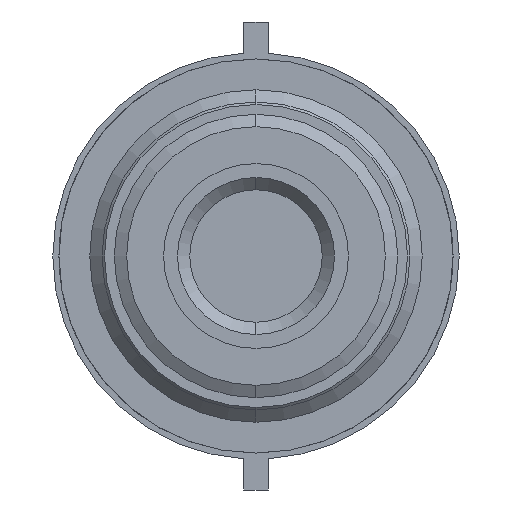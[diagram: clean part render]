
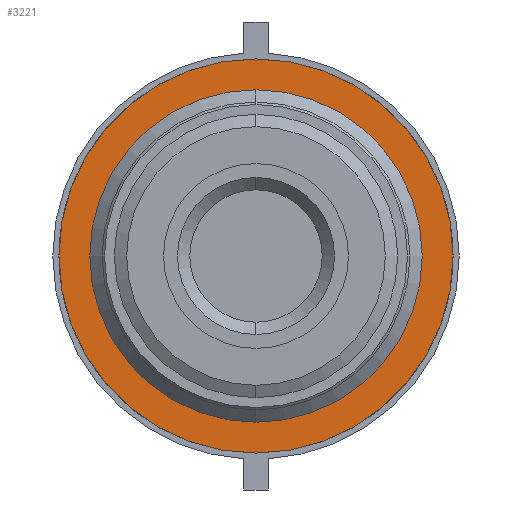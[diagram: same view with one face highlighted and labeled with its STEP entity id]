
A CAD part, left-side view. The second image highlights one B-rep face of the part: STEP entity #3221.
In plain terms, the highlighted planar face has unit normal (-1, 0, 0).
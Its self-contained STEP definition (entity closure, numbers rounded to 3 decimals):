
#1466=CARTESIAN_POINT('',(70.,0.,0.));
#1467=DIRECTION('',(-1.,0.,0.));
#1468=DIRECTION('',(0.,0.,-1.));
#1469=AXIS2_PLACEMENT_3D('',#1466,#1467,#1468);
#1471=CARTESIAN_POINT('',(70.,0.,0.));
#1472=DIRECTION('',(1.,0.,0.));
#1473=DIRECTION('',(0.,0.,-1.));
#1474=AXIS2_PLACEMENT_3D('',#1471,#1472,#1473);
#1476=CARTESIAN_POINT('',(70.,0.,0.));
#1477=DIRECTION('',(1.,0.,0.));
#1478=DIRECTION('',(0.,0.,-1.));
#1479=AXIS2_PLACEMENT_3D('',#1476,#1477,#1478);
#1481=CARTESIAN_POINT('',(70.,0.,0.));
#1482=DIRECTION('',(-1.,0.,0.));
#1483=DIRECTION('',(0.,0.,-1.));
#1484=AXIS2_PLACEMENT_3D('',#1481,#1482,#1483);
#2461=CARTESIAN_POINT('',(70.,0.,-16.));
#2463=VERTEX_POINT('',#2461);
#2464=CARTESIAN_POINT('',(70.,0.,-12.1));
#2466=VERTEX_POINT('',#2464);
#2479=CARTESIAN_POINT('',(70.,0.,16.));
#2481=VERTEX_POINT('',#2479);
#2482=CARTESIAN_POINT('',(70.,0.,12.1));
#2484=VERTEX_POINT('',#2482);
#3206=CARTESIAN_POINT('',(70.,0.,0.));
#3207=DIRECTION('',(1.,0.,0.));
#3208=DIRECTION('',(0.,0.,1.));
#3209=AXIS2_PLACEMENT_3D('',#3206,#3207,#3208);
#3210=PLANE('',#3209);
#3212=ORIENTED_EDGE('',*,*,#3211,.T.);
#3214=ORIENTED_EDGE('',*,*,#3213,.F.);
#3215=EDGE_LOOP('',(#3212,#3214));
#3216=FACE_OUTER_BOUND('',#3215,.F.);
#3217=ORIENTED_EDGE('',*,*,#3188,.T.);
#3218=ORIENTED_EDGE('',*,*,#3199,.F.);
#3219=EDGE_LOOP('',(#3217,#3218));
#3220=FACE_BOUND('',#3219,.F.);
#1470=CIRCLE('',#1469,12.1);
#1475=CIRCLE('',#1474,12.1);
#1480=CIRCLE('',#1479,16.);
#1485=CIRCLE('',#1484,16.);
#3188=EDGE_CURVE('',#2466,#2484,#1470,.T.);
#3199=EDGE_CURVE('',#2466,#2484,#1475,.T.);
#3211=EDGE_CURVE('',#2463,#2481,#1480,.T.);
#3213=EDGE_CURVE('',#2463,#2481,#1485,.T.);
#3221=ADVANCED_FACE('',(#3216,#3220),#3210,.F.);
